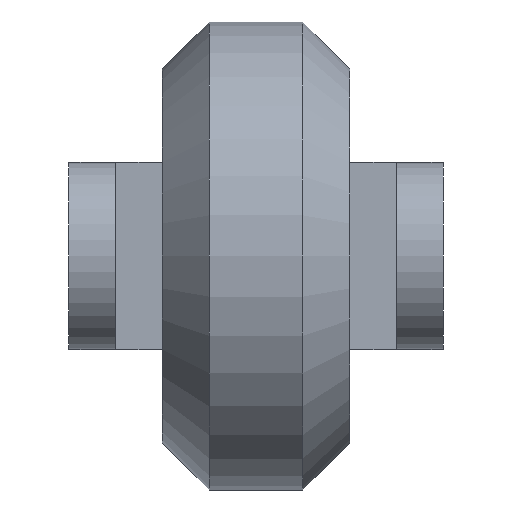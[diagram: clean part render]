
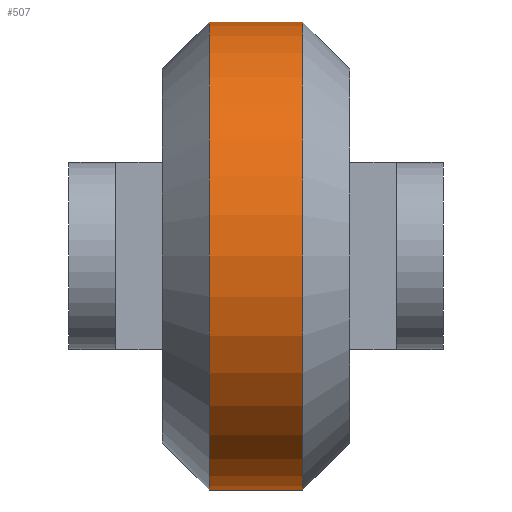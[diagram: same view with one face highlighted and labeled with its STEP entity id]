
A CAD part, front view. The second image highlights one B-rep face of the part: STEP entity #507.
In plain terms, the highlighted cylindrical face has radius 25 mm (diameter 50 mm), a full revolution.
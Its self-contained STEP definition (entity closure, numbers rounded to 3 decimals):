
#68=FACE_OUTER_BOUND('',#98,.T.);
#98=EDGE_LOOP('',(#373,#374,#375,#376,#377,#378));
#133=LINE('',#875,#170);
#170=VECTOR('',#706,25.);
#211=CIRCLE('',#614,25.);
#212=CIRCLE('',#615,25.);
#213=CIRCLE('',#617,25.);
#214=CIRCLE('',#618,25.);
#244=VERTEX_POINT('',#865);
#245=VERTEX_POINT('',#866);
#246=VERTEX_POINT('',#871);
#247=VERTEX_POINT('',#872);
#294=EDGE_CURVE('',#244,#245,#211,.T.);
#295=EDGE_CURVE('',#245,#244,#212,.T.);
#297=EDGE_CURVE('',#246,#247,#213,.T.);
#298=EDGE_CURVE('',#247,#246,#214,.T.);
#299=EDGE_CURVE('',#247,#245,#133,.T.);
#373=ORIENTED_EDGE('',*,*,#297,.F.);
#374=ORIENTED_EDGE('',*,*,#298,.F.);
#375=ORIENTED_EDGE('',*,*,#299,.T.);
#376=ORIENTED_EDGE('',*,*,#295,.T.);
#377=ORIENTED_EDGE('',*,*,#294,.T.);
#378=ORIENTED_EDGE('',*,*,#299,.F.);
#498=CYLINDRICAL_SURFACE('',#616,25.);
#507=ADVANCED_FACE('',(#68),#498,.T.);
#614=AXIS2_PLACEMENT_3D('',#867,#695,#696);
#615=AXIS2_PLACEMENT_3D('',#868,#697,#698);
#616=AXIS2_PLACEMENT_3D('',#870,#700,#701);
#617=AXIS2_PLACEMENT_3D('',#873,#702,#703);
#618=AXIS2_PLACEMENT_3D('',#874,#704,#705);
#695=DIRECTION('center_axis',(1.,0.,0.));
#696=DIRECTION('ref_axis',(0.,0.,-1.));
#697=DIRECTION('center_axis',(1.,0.,0.));
#698=DIRECTION('ref_axis',(0.,0.,-1.));
#700=DIRECTION('center_axis',(1.,0.,0.));
#701=DIRECTION('ref_axis',(0.,1.,0.));
#702=DIRECTION('center_axis',(1.,0.,0.));
#703=DIRECTION('ref_axis',(0.,0.,-1.));
#704=DIRECTION('center_axis',(1.,0.,0.));
#705=DIRECTION('ref_axis',(0.,0.,-1.));
#706=DIRECTION('',(-1.,0.,0.));
#865=CARTESIAN_POINT('',(-5.,25.,0.));
#866=CARTESIAN_POINT('',(-5.,-25.,0.));
#867=CARTESIAN_POINT('Origin',(-5.,0.,0.));
#868=CARTESIAN_POINT('Origin',(-5.,0.,0.));
#870=CARTESIAN_POINT('Origin',(0.,0.,0.));
#871=CARTESIAN_POINT('',(5.,25.,0.));
#872=CARTESIAN_POINT('',(5.,-25.,0.));
#873=CARTESIAN_POINT('Origin',(5.,0.,0.));
#874=CARTESIAN_POINT('Origin',(5.,0.,0.));
#875=CARTESIAN_POINT('',(0.,-25.,0.));
